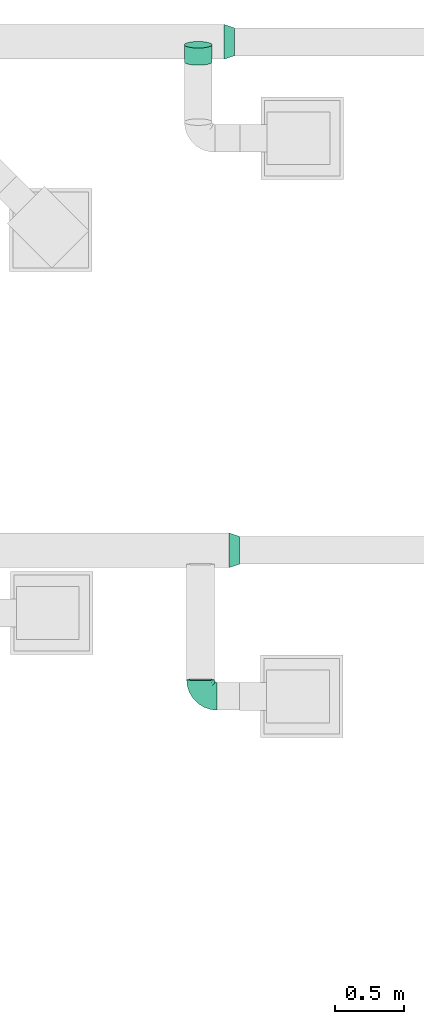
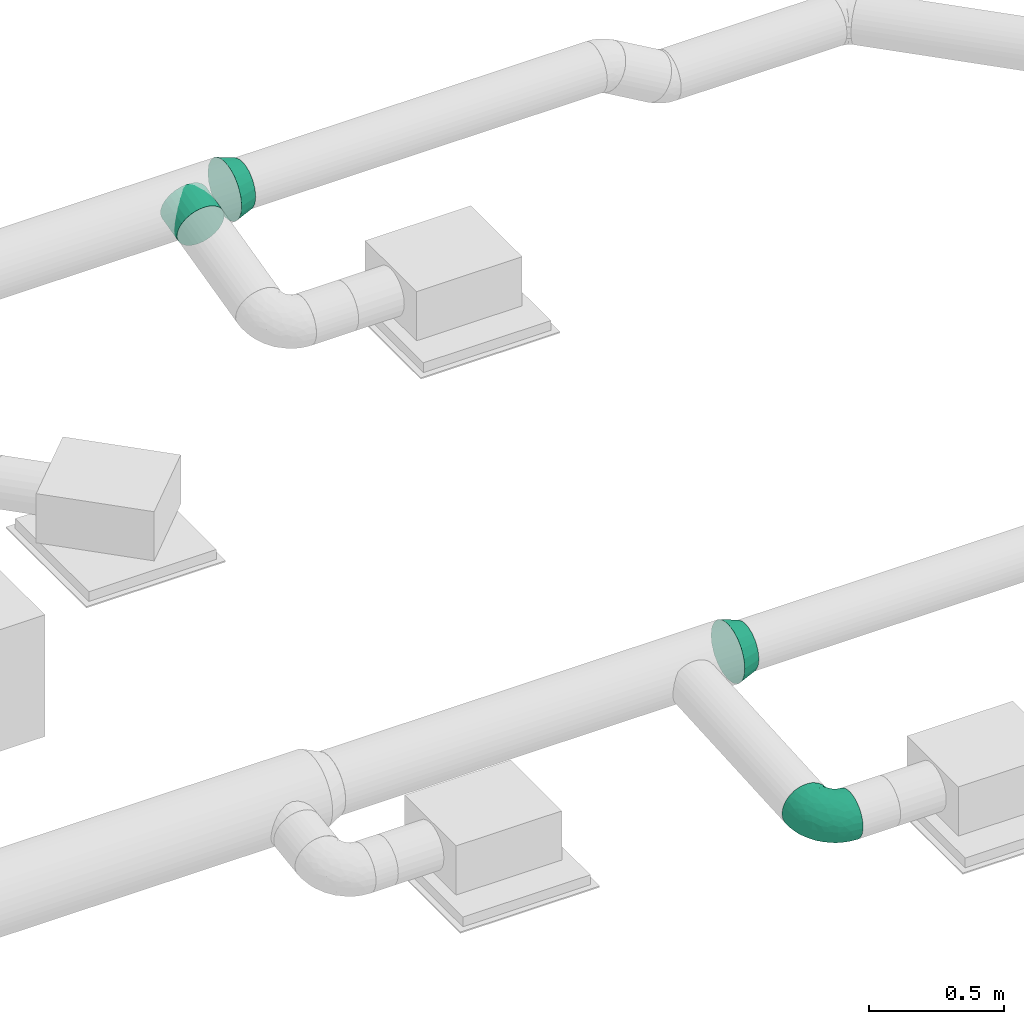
# One storey, part 15 of 16: 4 flow fittings.
"""IFC2X3 building model written with IfcOpenShell, lengths in millimetres."""

from ifc_helpers import new_model, entity, si_unit, converted_unit, derived_unit, direction, frame, origin_with_axes, place, context, subcontext, project, spatial, open_shell, surface_model, source, transform, mapped, type_object, element, save


model = new_model("IFC2X3")

# Units and contexts
model_context = context("Model", 3, precision=0.01, world=frame((0.0, 4.29681676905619e-09, 0.0)), true_north=direction((4.01073788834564e-13, 1.0)))
plan_context = context("Plan", 3, precision=0.01, world=frame((0.0, 4.29681676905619e-09, 0.0)), true_north=direction((4.01073788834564e-13, 1.0)))
body_context = subcontext(model_context, "Body", "Model", "MODEL_VIEW")
ifc_project = project(units=[converted_unit("PLANEANGLEUNIT", "DEGREE", entity("IfcPositiveLengthMeasure", 0.0174532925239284), si_unit("PLANEANGLEUNIT", "RADIAN"), dimensions=[0, 0, 0, 0, 0, 0, 0]), si_unit("AREAUNIT", "SQUARE_METRE"), si_unit("LENGTHUNIT", "METRE", prefix="MILLI"), si_unit("MASSUNIT", "GRAM", prefix="KILO"), si_unit("POWERUNIT", "WATT"), si_unit("PRESSUREUNIT", "PASCAL"), si_unit("FORCEUNIT", "NEWTON", prefix="KILO"), si_unit("ELECTRICVOLTAGEUNIT", "VOLT"), si_unit("ELECTRICCURRENTUNIT", "AMPERE"), si_unit("THERMODYNAMICTEMPERATUREUNIT", "DEGREE_CELSIUS"), si_unit("TIMEUNIT", "SECOND"), si_unit("VOLUMEUNIT", "CUBIC_METRE"), derived_unit("LINEARVELOCITYUNIT", [(si_unit("LENGTHUNIT", "METRE"), 1), (si_unit("TIMEUNIT", "SECOND"), -1)]), derived_unit("VOLUMETRICFLOWRATEUNIT", [(si_unit("VOLUMEUNIT", "CUBIC_METRE"), 1), (si_unit("TIMEUNIT", "SECOND"), -1)]), derived_unit("THERMALTRANSMITTANCEUNIT", [(si_unit("POWERUNIT", "WATT"), 1), (si_unit("THERMODYNAMICTEMPERATUREUNIT", "KELVIN"), -1), (si_unit("AREAUNIT", "SQUARE_METRE"), -1)]), derived_unit("SOUNDPRESSUREUNIT", [(si_unit("PRESSUREUNIT", "PASCAL"), 1)])], contexts=[model_context, plan_context])

# Site, building, storey
site_placement = place(None, frame((0.0, -4.29681676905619e-09, 0.0), z_axis=(0.0, 0.0, 1.0), x_axis=(1.0, 0.0, 0.0)))
site = spatial("IfcSite", under=ifc_project, at=site_placement, Name="ENGM", CompositionType="ELEMENT")
building_placement = place(site_placement, frame((0.0, 4.29681676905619e-09, 0.0), z_axis=(0.0, 0.0, 1.0), x_axis=(1.0, 0.0, 0.0)))
building = spatial("IfcBuilding", under=site, at=building_placement, Name="TH", CompositionType="ELEMENT")
storey_placement = place(building_placement, frame((0.0, 0.0, 210200.0), z_axis=(0.0, 0.0, 1.0), x_axis=(1.0, 0.0, 0.0)))
storey = spatial("IfcBuildingStorey", under=building, at=storey_placement, Name="Nivå F - 0,7 m", CompositionType="ELEMENT", Elevation=210200.0)

# Flow fittings
duct_fitting_type_1 = type_object("IfcDuctFittingType", Name="magicirc_reduction_001", PredefinedType="TRANSITION")
shared_shape_1 = source(origin_with_axes(), body_context, "Body", "SurfaceModel", [
    surface_model("IfcShellBasedSurfaceModel", [(0.0, 125.0, 0.0), (0.0, 73.47315, 101.12712), (0.0, 101.12712, 73.47315), (0.0, 38.62713, 118.88206), (0.0, -101.12712, 73.47315), (0.0, -118.88206, -38.62713), (0.0, -118.88206, 38.62713), (0.0, 101.12712, -73.47315), (0.0, 73.47315, -101.12712), (0.0, 38.62713, -118.88206), (0.0, 0.0, 125.0), (0.0, -125.0, 0.0), (0.0, 118.88206, 38.62713), (0.0, -73.47315, 101.12712), (0.0, -38.62713, 118.88206), (75.0, -17.36482, 98.48077), (75.0, -100.0, 0.0), (75.0, 17.36482, 98.48077), (75.0, -50.0, 86.60254), (75.0, -76.60444, 64.27876), (75.0, 50.0, 86.60254), (75.0, 93.96926, -34.20201), (75.0, 93.96926, 34.20201), (75.0, 100.0, 0.0), (75.0, 76.60444, 64.27876), (75.0, -93.96926, 34.20201), (75.0, -17.36482, -98.48077), (75.0, -93.96926, -34.20201), (75.0, -76.60444, -64.27876), (75.0, -50.0, -86.60254), (75.0, 76.60444, -64.27876), (75.0, 50.0, -86.60254), (75.0, 17.36482, -98.48077), (0.0, -38.62713, -118.88206), (0.0, 118.88206, -38.62713), (0.0, 0.0, -125.0), (0.0, -101.12712, -73.47315), (0.0, -73.47315, -101.12712)], [open_shell([[[0, 1, 2]], [[3, 1, 0]], [[4, 5, 6]], [[7, 8, 9]], [[0, 5, 10]], [[6, 5, 11]], [[0, 2, 12]], [[10, 3, 0]], [[5, 13, 14]], [[5, 4, 13]], [[15, 16, 17]], [[18, 19, 16]], [[16, 15, 18]], [[20, 17, 21]], [[22, 21, 23]], [[21, 24, 20]], [[24, 21, 22]], [[16, 19, 25]], [[26, 16, 27]], [[27, 28, 26]], [[29, 26, 28]], [[21, 16, 30]], [[31, 26, 32]], [[31, 30, 16]], [[26, 31, 16]], [[16, 21, 17]], [[5, 14, 10]], [[33, 0, 34]], [[34, 7, 35]], [[9, 35, 7]], [[36, 5, 37]], [[0, 37, 5]], [[0, 33, 37]], [[34, 35, 33]], [[23, 21, 34]], [[31, 32, 9]], [[30, 31, 8]], [[21, 30, 7]], [[0, 23, 34]], [[30, 8, 7]], [[7, 34, 21]], [[8, 31, 9]], [[32, 35, 9]], [[33, 26, 29]], [[27, 16, 5]], [[28, 27, 36]], [[37, 29, 28]], [[33, 35, 26]], [[37, 33, 29]], [[27, 5, 36]], [[36, 37, 28]], [[11, 5, 16]], [[26, 35, 32]], [[16, 25, 6]], [[18, 15, 14]], [[19, 18, 13]], [[25, 19, 4]], [[11, 16, 6]], [[19, 13, 4]], [[4, 6, 25]], [[13, 18, 14]], [[15, 10, 14]], [[3, 17, 20]], [[22, 23, 12]], [[24, 22, 2]], [[1, 20, 24]], [[3, 10, 17]], [[1, 3, 20]], [[22, 12, 2]], [[2, 1, 24]], [[0, 12, 23]], [[17, 10, 15]]])]),
])
flow_fitting_1_placement = place(storey_placement, frame((903776.49216, 482676.69257, 2861.60000000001), z_axis=(0.0, 0.0, 1.0), x_axis=(1.0, 0.0, 0.0)))
element("IfcFlowFitting", 1, at=flow_fitting_1_placement, inside=storey, type_object=duct_fitting_type_1, Name="magicirc_reduction_001", context=body_context, shape_type="MappedRepresentation", body=[
    mapped(shared_shape_1, transform((0.0, 0.0, 0.0), scale=1.0)),
])
duct_fitting_type_2 = type_object("IfcDuctFittingType", Name="magicirc_tapoutlet_001", PredefinedType="CONNECTOR")
shared_shape_2 = source(origin_with_axes(), body_context, "Body", "SurfaceModel", [
    surface_model("IfcShellBasedSurfaceModel", [(20.0, 25.8819, 96.59259), (20.0, 0.0, 100.0), (20.0, -25.8819, 96.59259), (0.0, -50.0, 86.60254), (20.0, -50.0, 86.60254), (0.0, -25.8819, 96.59259), (0.0, -70.71068, 70.71068), (20.0, 70.71068, 70.71068), (0.0, 50.0, 86.60254), (20.0, 50.0, 86.60254), (0.0, 86.60254, 50.0), (20.0, 86.60254, 50.0), (20.0, 96.59259, 25.8819), (0.0, 96.59259, 25.8819), (20.0, 100.0, 0.0), (0.0, 70.71068, 70.71068), (0.0, 100.0, 0.0), (0.0, 70.71068, -70.71068), (20.0, 50.0, -86.60254), (0.0, 50.0, -86.60254), (20.0, -70.71068, -70.71068), (0.0, -50.0, -86.60254), (20.0, -50.0, -86.60254), (20.0, -86.60254, -50.0), (0.0, -70.71068, -70.71068), (0.0, -96.59259, -25.8819), (0.0, -86.60254, -50.0), (20.0, -96.59259, -25.8819), (20.0, 25.8819, -96.59259), (20.0, 0.0, -100.0), (20.0, 70.71068, -70.71068), (20.0, 86.60254, -50.0), (20.0, -96.59259, 25.8819), (20.0, -25.8819, -96.59259), (20.0, -100.0, 0.0), (20.0, 96.59259, -25.8819), (20.0, -70.71068, 70.71068), (20.0, -86.60254, 50.0), (0.0, 0.0, 100.0), (0.0, 25.8819, 96.59259), (0.0, 96.59259, -25.8819), (0.0, 86.60254, -50.0), (0.0, 25.8819, -96.59259), (0.0, 0.0, -100.0), (0.0, -25.8819, -96.59259), (0.0, -100.0, 0.0), (0.0, -96.59259, 25.8819), (0.0, -86.60254, 50.0), (-107.09315, 0.0, -100.0), (-107.09315, -25.8819, -96.59259), (-107.09315, 25.8819, -96.59259), (-107.09315, 96.59259, 25.8819), (-107.09315, 50.0, -86.60254), (-107.09315, 86.60254, -50.0), (-107.09315, 70.71068, -70.71068), (-107.09315, -100.0, 0.0), (-107.09315, -96.59259, 25.8819), (-107.09315, -70.71068, -70.71068), (-107.09315, -50.0, -86.60254), (-107.09315, -96.59259, -25.8819), (-107.09315, -86.60254, -50.0), (-107.09315, 96.59259, -25.8819), (-107.09315, 86.60254, 50.0), (-107.09315, 70.71068, 70.71068), (-107.09315, 50.0, 86.60254), (-107.09315, 25.8819, 96.59259), (-107.09315, 0.0, 100.0), (-107.09315, -86.60254, 50.0), (-107.09315, -70.71068, 70.71068), (-107.09315, -25.8819, 96.59259), (-107.09315, -50.0, 86.60254), (-107.09315, 100.0, 0.0)], [open_shell([[[0, 1, 2]], [[3, 4, 2]], [[5, 3, 2]], [[6, 4, 3]], [[7, 8, 9]], [[10, 11, 12]], [[13, 12, 14]], [[13, 10, 12]], [[15, 11, 10]], [[16, 13, 14]], [[17, 18, 19]], [[20, 21, 22]], [[23, 24, 20]], [[25, 26, 27]], [[24, 23, 26]], [[28, 14, 29]], [[18, 14, 28]], [[14, 30, 31]], [[14, 18, 30]], [[20, 29, 32]], [[29, 22, 33]], [[29, 20, 22]], [[23, 32, 27]], [[32, 23, 20]], [[34, 27, 32]], [[14, 31, 35]], [[12, 11, 29]], [[11, 7, 29]], [[0, 29, 9]], [[29, 7, 9]], [[29, 0, 2]], [[29, 36, 37]], [[32, 29, 37]], [[29, 4, 36]], [[2, 4, 29]], [[12, 29, 14]], [[38, 1, 0]], [[39, 0, 9]], [[38, 0, 39]], [[8, 7, 15]], [[8, 39, 9]], [[11, 15, 7]], [[16, 14, 35]], [[40, 35, 31]], [[16, 35, 40]], [[41, 30, 17]], [[41, 40, 31]], [[30, 41, 31]], [[28, 29, 42]], [[18, 28, 19]], [[43, 42, 29]], [[28, 42, 19]], [[18, 17, 30]], [[43, 29, 33]], [[44, 33, 22]], [[43, 33, 44]], [[21, 20, 24]], [[21, 44, 22]], [[26, 23, 27]], [[25, 27, 34]], [[45, 25, 34]], [[45, 34, 32]], [[46, 32, 37]], [[45, 32, 46]], [[47, 36, 6]], [[47, 46, 37]], [[36, 47, 37]], [[5, 2, 1]], [[38, 5, 1]], [[4, 6, 36]], [[31, 35, 14]], [[2, 29, 0]], [[29, 37, 32]], [[36, 37, 29]], [[36, 29, 4]], [[29, 14, 12]], [[48, 49, 50]], [[50, 51, 52]], [[53, 54, 51]], [[51, 54, 52]], [[50, 55, 56]], [[57, 55, 58]], [[50, 49, 58]], [[59, 55, 60]], [[57, 60, 55]], [[58, 55, 50]], [[61, 53, 51]], [[62, 51, 50]], [[50, 63, 62]], [[64, 50, 65]], [[64, 63, 50]], [[66, 65, 50]], [[67, 68, 50]], [[50, 56, 67]], [[69, 66, 70]], [[50, 68, 70]], [[70, 66, 50]], [[71, 61, 51]], [[65, 38, 39]], [[64, 39, 8]], [[66, 38, 65]], [[65, 39, 64]], [[8, 63, 64]], [[8, 15, 63]], [[51, 10, 13]], [[71, 13, 16]], [[15, 62, 63]], [[15, 10, 62]], [[62, 10, 51]], [[13, 71, 51]], [[40, 41, 53]], [[16, 40, 71]], [[71, 40, 61]], [[54, 53, 41]], [[40, 53, 61]], [[41, 17, 54]], [[50, 19, 42]], [[48, 42, 43]], [[17, 52, 54]], [[17, 19, 52]], [[52, 19, 50]], [[42, 48, 50]], [[49, 43, 44]], [[58, 44, 21]], [[48, 43, 49]], [[49, 44, 58]], [[21, 57, 58]], [[21, 24, 57]], [[59, 26, 25]], [[55, 25, 45]], [[24, 60, 57]], [[24, 26, 60]], [[60, 26, 59]], [[25, 55, 59]], [[56, 45, 46]], [[67, 46, 47]], [[55, 45, 56]], [[56, 46, 67]], [[47, 68, 67]], [[47, 6, 68]], [[69, 3, 5]], [[66, 5, 38]], [[6, 70, 68]], [[6, 3, 70]], [[70, 3, 69]], [[5, 66, 69]]])]),
])
flow_fitting_2_placement = place(storey_placement, frame((903553.5, 486212.17813, 2736.60936), z_axis=(0.0, 0.236573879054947, -0.971613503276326), x_axis=(0.0, -0.971613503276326, -0.236573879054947)))
element("IfcFlowFitting", 2, at=flow_fitting_2_placement, inside=storey, type_object=duct_fitting_type_2, Name="magicirc_tapoutlet_001", context=body_context, shape_type="MappedRepresentation", body=[
    mapped(shared_shape_2, transform((0.0, 0.0, 0.0), scale=1.0)),
])
shared_shape_3 = source(origin_with_axes(), body_context, "Body", "SurfaceModel", [
    surface_model("IfcShellBasedSurfaceModel", [(0.0, 17.36482, 98.48077), (0.0, 50.0, 86.60254), (0.0, 76.60444, 64.27876), (0.0, -17.36482, 98.48077), (0.0, -50.0, 86.60254), (75.0, 0.0, 125.0), (75.0, -38.62713, 118.88206), (75.0, -73.47315, 101.12712), (75.0, 73.47315, 101.12712), (75.0, -101.12712, 73.47315), (75.0, 125.0, 0.0), (75.0, -118.88206, 38.62713), (75.0, 38.62713, 118.88206), (75.0, 101.12712, 73.47315), (75.0, 118.88206, 38.62713), (75.0, 0.0, -125.0), (75.0, -118.88206, -38.62713), (75.0, -101.12712, -73.47315), (75.0, -38.62713, -118.88206), (75.0, -73.47315, -101.12712), (75.0, 118.88206, -38.62713), (75.0, 101.12712, -73.47315), (75.0, 73.47315, -101.12712), (75.0, 38.62713, -118.88206), (75.0, -125.0, 0.0), (0.0, 93.96926, 34.20201), (0.0, -93.96926, 34.20201), (0.0, -76.60444, 64.27876), (0.0, -100.0, 0.0), (0.0, 17.36482, -98.48077), (0.0, 93.96926, -34.20201), (0.0, 76.60444, -64.27876), (0.0, 50.0, -86.60254), (0.0, -76.60444, -64.27876), (0.0, -93.96926, -34.20201), (0.0, -17.36482, -98.48077), (0.0, -50.0, -86.60254), (0.0, 100.0, 0.0)], [open_shell([[[0, 1, 2]], [[3, 0, 4]], [[5, 6, 7]], [[8, 7, 9]], [[7, 8, 5]], [[10, 9, 11]], [[12, 5, 8]], [[13, 10, 14]], [[10, 13, 8]], [[9, 10, 8]], [[11, 15, 10]], [[16, 17, 11]], [[18, 11, 19]], [[11, 17, 19]], [[18, 15, 11]], [[20, 10, 21]], [[22, 21, 10]], [[23, 22, 10]], [[15, 23, 10]], [[16, 11, 24]], [[0, 2, 4]], [[4, 2, 25]], [[4, 26, 27]], [[26, 4, 28]], [[25, 28, 4]], [[25, 29, 28]], [[30, 31, 25]], [[32, 25, 31]], [[25, 32, 29]], [[28, 33, 34]], [[28, 35, 36]], [[36, 33, 28]], [[28, 29, 35]], [[37, 30, 25]], [[28, 34, 16]], [[19, 33, 36]], [[18, 36, 35]], [[34, 33, 17]], [[24, 28, 16]], [[16, 34, 17]], [[18, 19, 36]], [[33, 19, 17]], [[35, 15, 18]], [[29, 32, 23]], [[30, 37, 20]], [[31, 30, 21]], [[32, 31, 22]], [[32, 22, 23]], [[23, 15, 29]], [[21, 22, 31]], [[30, 20, 21]], [[10, 20, 37]], [[29, 15, 35]], [[37, 25, 14]], [[8, 2, 1]], [[12, 1, 0]], [[25, 2, 13]], [[10, 37, 14]], [[14, 25, 13]], [[12, 8, 1]], [[2, 8, 13]], [[0, 5, 12]], [[3, 4, 6]], [[26, 28, 11]], [[27, 26, 9]], [[4, 27, 7]], [[4, 7, 6]], [[6, 5, 3]], [[9, 7, 27]], [[26, 11, 9]], [[24, 11, 28]], [[3, 5, 0]]])]),
])
flow_fitting_3_placement = place(storey_placement, frame((903814.66757, 486337.00187, 2743.24238000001), z_axis=(4.1999999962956e-05, 0.0, 0.999999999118), x_axis=(-0.999999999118, 0.0, 4.1999999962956e-05)))
element("IfcFlowFitting", 3, at=flow_fitting_3_placement, inside=storey, type_object=duct_fitting_type_1, Name="magicirc_reduction_001", context=body_context, shape_type="MappedRepresentation", body=[
    mapped(shared_shape_3, transform((0.0, 0.0, 0.0), scale=1.0)),
])
duct_fitting_type_3 = type_object("IfcDuctFittingType", Name="magicirc_elbow_short_001", PredefinedType="BEND")
shared_shape_4 = source(origin_with_axes(), body_context, "Body", "SurfaceModel", [
    surface_model("IfcShellBasedSurfaceModel", [(-120.00077, 0.0, -100.0), (-120.00077, -70.71068, -70.71068), (-120.00077, 25.8819, -96.59259), (-120.00077, 50.0, -86.60254), (-120.00077, 70.71068, -70.71068), (-120.00077, 96.59259, -25.8819), (-120.00077, 86.60254, -50.0), (-120.00077, -86.60254, -50.0), (-120.00077, -50.0, -86.60254), (-120.00077, -25.8819, -96.59259), (-120.00077, -96.59259, -25.8819), (-120.00077, -100.0, 0.0), (-120.00077, 96.59259, 25.8819), (-120.00077, 25.8819, 96.59259), (-120.00077, 86.60254, 50.0), (-120.00077, 50.0, 86.60254), (-120.00077, 70.71068, 70.71068), (-120.00077, -25.8819, 96.59259), (-120.00077, -70.71068, 70.71068), (-120.00077, -50.0, 86.60254), (-120.00077, -86.60254, 50.0), (-120.00077, -96.59259, 25.8819), (-120.00077, 0.0, 100.0), (-120.00077, 100.0, 0.0), (-25.88267, 120.00061, -96.59259), (99.99923, 120.00141, 0.0), (-0.00077, 120.00077, -100.0), (-70.71145, 120.00032, -70.71068), (-50.00077, 120.00045, -86.60254), (-86.60331, 120.00022, -50.0), (96.59181, 120.00139, 25.8819), (25.88113, 120.00093, -96.59259), (70.70991, 120.00122, -70.71068), (49.99923, 120.00109, -86.60254), (86.60177, 120.00132, -50.0), (96.59181, 120.00139, -25.8819), (-96.59335, 120.00015, -25.8819), (-100.00077, 120.00012, 0.0), (-96.59335, 120.00015, 25.8819), (-86.60331, 120.00022, 50.0), (-25.88267, 120.00061, 96.59259), (-50.00077, 120.00045, 86.60254), (-70.71145, 120.00032, 70.71068), (25.88113, 120.00093, 96.59259), (70.70991, 120.00122, 70.71068), (86.60177, 120.00132, 50.0), (49.99923, 120.00109, 86.60254), (-0.00077, 120.00077, 100.0), (-57.47716, 95.22265, 84.95808), (-85.34024, -92.9631, 28.79272), (-95.21006, -97.20675, 0.0), (-84.48544, -65.01561, 72.95428), (-52.96129, -70.60036, 57.16968), (-58.29279, -58.77957, 72.25716), (-71.04597, -94.48409, 0.0), (-33.46673, 86.30117, 96.24783), (-7.45387, 88.76886, 99.94878), (-26.53085, -25.83128, 84.6651), (5.23518, -24.18297, 70.44188), (-1.23127, 1.23125, 87.74603), (-103.71283, 103.71217, 24.44794), (-95.28237, 98.70423, 48.6408), (-78.84024, -43.63424, 87.32257), (48.45054, -8.11907, 40.0326), (39.62897, -27.51005, 22.8702), (55.13081, -9.11207, 21.86708), (27.15391, -27.15375, 47.29768), (-0.98692, -46.34981, 53.41358), (-49.26068, -85.42958, 23.21413), (-69.41546, -80.94007, 48.93362), (34.63162, 2.36321, 66.93742), (-59.0377, -17.7446, 95.19278), (-92.37052, -18.34987, 97.7525), (-98.24656, -81.70799, 55.9579), (-87.21727, 7.38783, 99.96319), (-79.82353, 33.86297, 96.83653), (-103.25307, 34.36928, 94.4862), (-49.86366, 16.95349, 99.8918), (-93.99482, 57.5278, 85.2142), (-13.52416, 31.62205, 98.29711), (-30.34697, -2.85944, 94.71033), (-102.74685, 77.59979, 67.01382), (-105.21091, 88.71413, 52.03644), (94.48364, 71.04658, 0.0), (92.96255, 85.34084, 28.79272), (85.42927, 49.26122, 23.21413), (18.34928, 92.37064, 97.7525), (-37.44813, -44.66645, 76.66969), (-66.87881, 56.54949, 92.80406), (65.01507, 84.48586, 72.95428), (43.63372, 78.84051, 87.32257), (37.67684, 38.3843, 81.78147), (58.58182, 33.3042, 61.93153), (58.77919, 58.29315, 72.25716), (14.52607, -47.57753, 31.54378), (81.70737, 98.24708, 55.9579), (97.20613, 95.21068, 0.0), (75.22745, 38.87785, 40.54529), (80.93963, 69.41598, 48.93362), (-19.32344, 64.21373, 99.87989), (-105.85859, 105.85791, 0.0), (17.74421, 59.03781, 95.19278), (70.60002, 52.96173, 57.16967), (-82.76532, 82.76478, 73.92667), (-77.60044, 102.74635, 67.01383), (-38.87738, -75.2277, 40.5453), (-40.86181, 50.04854, 98.96108), (-25.82465, -76.70771, 19.45339), (-49.50468, 71.23382, 93.94067), (-57.3175, 35.1224, 98.94535), (65.10774, 3.68968, 0.0), (65.80688, 11.30419, 30.40513), (15.01756, 28.10451, 90.12786), (-0.15215, 65.0796, 99.29743), (-47.79597, -86.34854, 0.0), (-67.45548, 75.91102, 85.77415), (-3.68926, -65.10776, 0.0), (17.16746, -52.00255, 0.0), (-11.30377, -65.80696, 30.40513), (-24.54599, -78.21298, 0.0), (76.76885, 27.9147, 23.28621), (86.34823, 47.79653, 0.0), (58.40834, 13.74504, 48.13403), (52.00266, -17.16713, 0.0), (20.33516, 8.19573, 80.4259), (-51.11691, -33.50476, 87.58856), (-33.30384, -58.58203, 61.93154), (-17.26258, -60.80712, 47.57589), (78.21282, 24.54649, 0.0), (34.58506, -34.58484, 0.0), (-86.30138, 33.46617, -96.24784), (-34.36994, 103.25285, -94.4862), (-11.30376, -65.80695, -30.40513), (9.11242, -55.13076, -21.86709), (-98.24656, -81.70799, -55.9579), (-88.76891, 7.45329, -99.94878), (43.63373, 78.84051, -87.32257), (-98.70484, 95.28173, -48.6408), (-82.76532, 82.76478, -73.92667), (-102.74685, 77.59979, -67.01382), (85.42926, 49.26122, -23.21413), (75.22744, 38.87785, -40.5453), (80.93963, 69.41598, -48.93362), (27.15391, -27.15374, -47.29769), (47.57762, -14.52577, -31.54379), (27.5103, -39.62879, -22.8702), (-71.23414, 49.50422, -93.94067), (-56.54992, 66.87844, -92.80406), (-50.0488, 40.86149, -98.96109), (-33.86348, 79.82331, -96.83652), (-57.5284, 93.99444, -85.2142), (-16.95382, 49.86355, -99.8918), (-31.62214, 13.52395, -98.29711), (-85.34024, -92.9631, -28.79272), (24.18299, -5.23504, -70.44188), (46.34981, 0.98722, -53.41359), (65.01507, 84.48586, -72.95428), (-84.48544, -65.01561, -72.95428), (-78.84023, -43.63424, -87.32257), (-103.71283, 103.71217, -24.44794), (-95.22302, 57.47654, -84.95808), (-49.26068, -85.42958, -23.21413), (-92.37052, -18.34987, -97.7525), (-38.87737, -75.2277, -40.5453), (-69.41546, -80.94007, -48.93362), (-88.71482, 105.21034, -52.03644), (-7.38838, 87.2172, -99.96319), (17.74422, 59.03781, -95.19278), (-33.30384, -58.58203, -61.93154), (-52.96129, -70.60036, -57.16968), (-77.60044, 102.74635, -67.01383), (-38.38408, -37.67709, -81.78147), (-2.363, -34.63164, -66.93742), (18.34928, 92.37064, -97.7525), (81.70737, 98.24708, -55.9579), (8.11938, -48.45048, -40.0326), (-1.23126, 1.23125, -87.74603), (25.83111, 26.531, -84.66509), (92.96255, 85.34084, -28.79272), (76.70754, 25.82513, -19.45339), (-59.0377, -17.7446, -95.19278), (2.85925, 30.34697, -94.71033), (-64.21385, 19.32302, -99.87989), (58.77919, 58.29317, -72.25716), (70.60001, 52.96175, -57.16968), (-58.29279, -58.77957, -72.25716), (-35.12278, 57.31726, -98.94535), (44.66621, 37.44841, -76.66969), (-28.10442, -15.01775, -90.12786), (-65.0796, 0.15173, -99.29743), (-75.91146, 67.45499, -85.77415), (-27.9142, -76.76902, -23.28622), (-13.74467, -58.40843, -48.13404), (65.80688, 11.30417, -30.40513), (-8.19561, -20.33523, -80.4259), (33.50443, 51.11712, -87.58856), (58.58182, 33.30422, -61.93154), (60.80701, 17.26296, -47.57589)], [open_shell([[[0, 1, 2]], [[3, 2, 4]], [[5, 6, 4]], [[7, 4, 2]], [[4, 7, 5]], [[8, 1, 9]], [[1, 0, 9]], [[10, 11, 7]], [[7, 2, 1]], [[7, 11, 5]], [[11, 12, 5]], [[13, 12, 11]], [[14, 12, 13]], [[13, 15, 16]], [[14, 13, 16]], [[17, 13, 11]], [[18, 19, 20]], [[21, 20, 19]], [[19, 17, 21]], [[21, 17, 11]], [[17, 22, 13]], [[12, 23, 5]], [[24, 25, 26]], [[27, 24, 28]], [[25, 24, 29]], [[29, 24, 27]], [[30, 25, 29]], [[31, 32, 33]], [[31, 26, 32]], [[34, 25, 35]], [[25, 34, 32]], [[26, 25, 32]], [[29, 36, 30]], [[37, 38, 39]], [[37, 39, 40]], [[41, 40, 39]], [[41, 39, 42]], [[37, 40, 43]], [[30, 44, 45]], [[44, 30, 46]], [[30, 43, 46]], [[30, 37, 43]], [[40, 47, 43]], [[37, 30, 36]], [[41, 42, 48]], [[49, 21, 50]], [[49, 20, 21]], [[51, 52, 53]], [[50, 54, 49]], [[40, 55, 56]], [[57, 58, 59]], [[60, 61, 38]], [[19, 51, 62]], [[63, 64, 65]], [[66, 58, 67]], [[49, 68, 69]], [[19, 18, 51]], [[58, 66, 70]], [[62, 71, 72]], [[22, 17, 72]], [[73, 18, 20]], [[74, 75, 76]], [[75, 74, 77]], [[15, 76, 78]], [[79, 77, 80]], [[16, 81, 14]], [[82, 12, 14]], [[81, 82, 14]], [[23, 12, 60]], [[83, 84, 85]], [[15, 78, 16]], [[41, 48, 55]], [[43, 47, 86]], [[53, 87, 62]], [[17, 19, 62]], [[75, 88, 78]], [[89, 44, 46]], [[86, 90, 43]], [[60, 12, 82]], [[46, 43, 90]], [[91, 92, 93]], [[84, 30, 45]], [[66, 94, 64]], [[90, 89, 46]], [[44, 95, 45]], [[84, 96, 30]], [[97, 85, 98]], [[13, 76, 15]], [[99, 56, 55]], [[100, 23, 60]], [[91, 90, 101]], [[100, 60, 37]], [[92, 97, 102]], [[103, 104, 61]], [[68, 105, 69]], [[106, 77, 79]], [[61, 39, 38]], [[42, 39, 104]], [[13, 22, 74]], [[107, 105, 68]], [[108, 88, 106]], [[55, 40, 41]], [[56, 47, 40]], [[92, 91, 70]], [[75, 77, 109]], [[110, 111, 65]], [[74, 71, 77]], [[72, 74, 22]], [[80, 71, 57]], [[75, 109, 88]], [[81, 78, 103]], [[112, 79, 59]], [[113, 56, 99]], [[68, 54, 114]], [[73, 49, 69]], [[95, 84, 45]], [[85, 84, 98]], [[104, 48, 42]], [[115, 88, 108]], [[108, 99, 55]], [[56, 113, 86]], [[102, 93, 92]], [[95, 89, 98]], [[73, 51, 18]], [[52, 69, 105]], [[116, 117, 118]], [[68, 119, 107]], [[107, 116, 118]], [[67, 94, 66]], [[97, 111, 120]], [[85, 121, 83]], [[70, 63, 122]], [[65, 123, 110]], [[101, 112, 91]], [[66, 64, 63]], [[124, 91, 112]], [[70, 124, 58]], [[59, 80, 57]], [[58, 87, 67]], [[57, 125, 87]], [[58, 57, 87]], [[99, 108, 106]], [[78, 88, 115]], [[56, 86, 47]], [[90, 86, 101]], [[62, 72, 17]], [[74, 72, 71]], [[61, 104, 39]], [[104, 103, 115]], [[78, 81, 16]], [[82, 103, 61]], [[126, 127, 67]], [[67, 127, 94]], [[85, 128, 121]], [[94, 129, 64]], [[110, 120, 111]], [[63, 65, 111]], [[122, 63, 111]], [[70, 66, 63]], [[79, 80, 59]], [[77, 71, 80]], [[106, 79, 99]], [[113, 79, 101]], [[55, 48, 108]], [[48, 104, 115]], [[48, 115, 108]], [[78, 115, 103]], [[127, 105, 118]], [[105, 127, 52]], [[53, 52, 126]], [[51, 69, 52]], [[87, 53, 126]], [[62, 51, 53]], [[87, 126, 67]], [[57, 71, 125]], [[71, 62, 125]], [[62, 87, 125]], [[102, 97, 98]], [[122, 97, 92]], [[98, 89, 102]], [[93, 102, 89]], [[89, 90, 93]], [[91, 93, 90]], [[97, 122, 111]], [[70, 122, 92]], [[79, 113, 99]], [[86, 113, 101]], [[64, 123, 65]], [[85, 97, 120]], [[79, 112, 101]], [[120, 110, 128]], [[124, 112, 59]], [[58, 124, 59]], [[91, 124, 70]], [[103, 82, 81]], [[82, 61, 60]], [[21, 11, 50]], [[96, 84, 83]], [[96, 25, 30]], [[37, 60, 38]], [[74, 76, 13]], [[78, 76, 75]], [[49, 73, 20]], [[51, 73, 69]], [[89, 95, 44]], [[84, 95, 98]], [[77, 106, 109]], [[88, 109, 106]], [[54, 68, 49]], [[114, 119, 68]], [[105, 107, 118]], [[107, 119, 116]], [[117, 94, 118]], [[127, 126, 52]], [[94, 127, 118]], [[129, 94, 117]], [[129, 123, 64]], [[128, 85, 120]], [[3, 130, 2]], [[24, 131, 28]], [[132, 133, 116]], [[1, 134, 7]], [[2, 135, 0]], [[31, 33, 136]], [[137, 138, 139]], [[140, 141, 142]], [[6, 139, 4]], [[143, 144, 145]], [[6, 5, 137]], [[146, 147, 148]], [[149, 147, 150]], [[148, 151, 152]], [[7, 153, 10]], [[143, 154, 155]], [[153, 50, 10]], [[33, 32, 156]], [[157, 8, 158]], [[159, 137, 5]], [[1, 8, 157]], [[8, 9, 158]], [[3, 4, 160]], [[35, 25, 96]], [[54, 153, 161]], [[9, 162, 158]], [[163, 161, 164]], [[165, 36, 29]], [[23, 100, 159]], [[166, 167, 151]], [[37, 36, 159]], [[168, 163, 169]], [[29, 170, 165]], [[24, 26, 166]], [[168, 171, 172]], [[27, 170, 29]], [[149, 131, 166]], [[160, 130, 3]], [[149, 166, 151]], [[136, 167, 173]], [[174, 32, 34]], [[27, 28, 150]], [[28, 131, 150]], [[31, 173, 26]], [[136, 33, 156]], [[154, 143, 172]], [[2, 130, 135]], [[133, 175, 145]], [[154, 176, 177]], [[9, 0, 162]], [[140, 142, 178]], [[179, 141, 140]], [[96, 83, 178]], [[35, 96, 178]], [[171, 158, 180]], [[152, 151, 181]], [[182, 135, 130]], [[183, 156, 184]], [[171, 168, 185]], [[178, 34, 35]], [[173, 166, 26]], [[159, 5, 23]], [[186, 151, 148]], [[183, 187, 136]], [[181, 167, 177]], [[149, 186, 147]], [[170, 150, 138]], [[188, 152, 176]], [[189, 135, 182]], [[134, 153, 7]], [[161, 153, 164]], [[140, 83, 121]], [[174, 178, 142]], [[139, 160, 4]], [[190, 147, 146]], [[146, 182, 130]], [[135, 189, 162]], [[169, 185, 168]], [[134, 157, 164]], [[174, 156, 32]], [[184, 142, 141]], [[163, 132, 191]], [[161, 114, 54]], [[172, 175, 192]], [[133, 117, 116]], [[110, 123, 193]], [[140, 128, 179]], [[179, 110, 193]], [[155, 144, 143]], [[180, 188, 171]], [[143, 145, 175]], [[194, 171, 188]], [[172, 194, 154]], [[176, 181, 177]], [[154, 187, 155]], [[177, 195, 187]], [[154, 177, 187]], [[182, 146, 148]], [[150, 147, 190]], [[135, 162, 0]], [[158, 162, 180]], [[136, 173, 31]], [[166, 173, 167]], [[137, 139, 6]], [[139, 138, 190]], [[150, 170, 27]], [[165, 138, 137]], [[196, 197, 155]], [[155, 197, 144]], [[197, 196, 184]], [[144, 129, 145]], [[116, 191, 132]], [[175, 133, 132]], [[192, 175, 132]], [[172, 143, 175]], [[152, 181, 176]], [[151, 167, 181]], [[148, 152, 182]], [[189, 152, 180]], [[130, 160, 146]], [[160, 139, 190]], [[160, 190, 146]], [[150, 190, 138]], [[169, 163, 164]], [[192, 163, 168]], [[164, 157, 169]], [[185, 169, 157]], [[157, 158, 185]], [[171, 185, 158]], [[197, 141, 193]], [[141, 197, 184]], [[183, 184, 196]], [[156, 142, 184]], [[187, 183, 196]], [[136, 156, 183]], [[187, 196, 155]], [[177, 167, 195]], [[167, 136, 195]], [[136, 187, 195]], [[163, 192, 132]], [[172, 192, 168]], [[152, 189, 182]], [[162, 189, 180]], [[145, 117, 133]], [[161, 163, 191]], [[152, 188, 180]], [[191, 116, 119]], [[194, 188, 176]], [[154, 194, 176]], [[171, 194, 172]], [[138, 165, 170]], [[165, 137, 159]], [[50, 153, 54]], [[50, 11, 10]], [[37, 159, 100]], [[159, 36, 165]], [[166, 131, 24]], [[150, 131, 149]], [[178, 174, 34]], [[156, 174, 142]], [[157, 134, 1]], [[153, 134, 164]], [[147, 186, 148]], [[149, 151, 186]], [[161, 119, 114]], [[83, 140, 178]], [[121, 128, 140]], [[141, 179, 193]], [[179, 128, 110]], [[123, 144, 193]], [[144, 197, 193]], [[129, 144, 123]], [[129, 117, 145]], [[119, 161, 191]]])]),
])
flow_fitting_4_placement = place(storey_placement, frame((903569.83019, 481625.40642, 2798.0), z_axis=(-5.29395592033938e-23, -0.0603779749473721, 0.99817558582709), x_axis=(-5.99999751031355e-06, -0.998175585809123, -0.0603779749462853)))
element("IfcFlowFitting", 4, at=flow_fitting_4_placement, inside=storey, type_object=duct_fitting_type_3, Name="magicirc_elbow_short_001", context=body_context, shape_type="MappedRepresentation", body=[
    mapped(shared_shape_4, transform((0.0, 0.0, 0.0), scale=1.0)),
])

save(model, "model.ifc")
